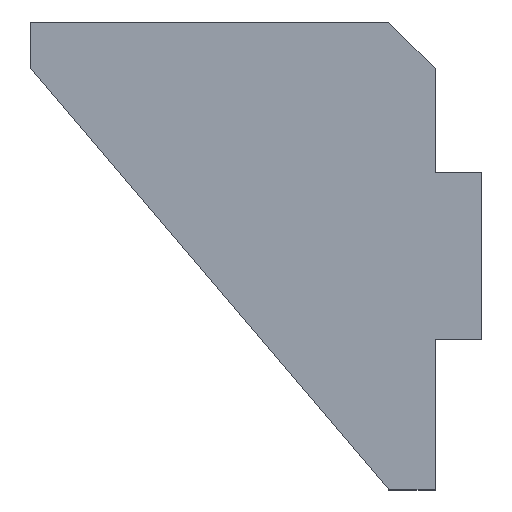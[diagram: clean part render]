
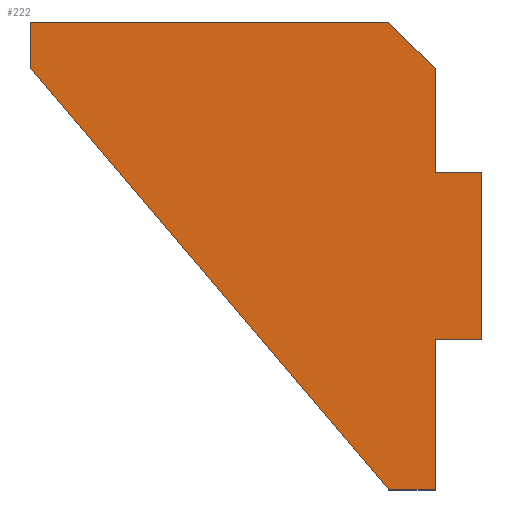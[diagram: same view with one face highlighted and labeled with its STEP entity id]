
A CAD part, top view. The second image highlights one B-rep face of the part: STEP entity #222.
In plain terms, the highlighted planar face has unit normal (0, 0, 1).
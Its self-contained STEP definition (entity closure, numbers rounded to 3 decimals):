
#16=FACE_OUTER_BOUND('',#28,.T.);
#28=EDGE_LOOP('',(#153,#154,#155,#156,#157,#158,#159,#160,#161,#162));
#41=LINE('',#332,#71);
#43=LINE('',#336,#73);
#44=LINE('',#338,#74);
#45=LINE('',#340,#75);
#46=LINE('',#342,#76);
#47=LINE('',#344,#77);
#48=LINE('',#346,#78);
#49=LINE('',#348,#79);
#50=LINE('',#350,#80);
#51=LINE('',#351,#81);
#71=VECTOR('',#274,10.);
#73=VECTOR('',#278,10.);
#74=VECTOR('',#279,10.);
#75=VECTOR('',#280,10.);
#76=VECTOR('',#281,10.);
#77=VECTOR('',#282,10.);
#78=VECTOR('',#283,10.);
#79=VECTOR('',#284,10.);
#80=VECTOR('',#285,10.);
#81=VECTOR('',#286,10.);
#101=VERTEX_POINT('',#329);
#102=VERTEX_POINT('',#331);
#103=VERTEX_POINT('',#335);
#104=VERTEX_POINT('',#337);
#105=VERTEX_POINT('',#339);
#106=VERTEX_POINT('',#341);
#107=VERTEX_POINT('',#343);
#108=VERTEX_POINT('',#345);
#109=VERTEX_POINT('',#347);
#110=VERTEX_POINT('',#349);
#121=EDGE_CURVE('',#101,#102,#41,.T.);
#123=EDGE_CURVE('',#101,#103,#43,.T.);
#124=EDGE_CURVE('',#103,#104,#44,.T.);
#125=EDGE_CURVE('',#104,#105,#45,.T.);
#126=EDGE_CURVE('',#105,#106,#46,.T.);
#127=EDGE_CURVE('',#106,#107,#47,.T.);
#128=EDGE_CURVE('',#107,#108,#48,.T.);
#129=EDGE_CURVE('',#108,#109,#49,.T.);
#130=EDGE_CURVE('',#109,#110,#50,.T.);
#131=EDGE_CURVE('',#110,#102,#51,.T.);
#153=ORIENTED_EDGE('',*,*,#121,.F.);
#154=ORIENTED_EDGE('',*,*,#123,.T.);
#155=ORIENTED_EDGE('',*,*,#124,.T.);
#156=ORIENTED_EDGE('',*,*,#125,.T.);
#157=ORIENTED_EDGE('',*,*,#126,.T.);
#158=ORIENTED_EDGE('',*,*,#127,.T.);
#159=ORIENTED_EDGE('',*,*,#128,.T.);
#160=ORIENTED_EDGE('',*,*,#129,.T.);
#161=ORIENTED_EDGE('',*,*,#130,.T.);
#162=ORIENTED_EDGE('',*,*,#131,.T.);
#210=PLANE('',#257);
#222=ADVANCED_FACE('',(#16),#210,.T.);
#257=AXIS2_PLACEMENT_3D('',#334,#276,#277);
#274=DIRECTION('',(0.707,-0.707,0.));
#276=DIRECTION('center_axis',(0.,0.,1.));
#277=DIRECTION('ref_axis',(1.,0.,0.));
#278=DIRECTION('',(-1.,0.,0.));
#279=DIRECTION('',(0.,-1.,0.));
#280=DIRECTION('',(0.647,-0.762,0.));
#281=DIRECTION('',(1.,0.,0.));
#282=DIRECTION('',(0.,1.,0.));
#283=DIRECTION('',(1.,0.,0.));
#284=DIRECTION('',(0.,1.,0.));
#285=DIRECTION('',(-1.,0.,0.));
#286=DIRECTION('',(0.,1.,0.));
#329=CARTESIAN_POINT('',(-8.,0.,0.));
#331=CARTESIAN_POINT('',(0.,-8.,0.));
#332=CARTESIAN_POINT('',(-1.625,-6.375,0.));
#334=CARTESIAN_POINT('Origin',(-31.,-40.5,0.));
#335=CARTESIAN_POINT('',(-70.,0.,0.));
#336=CARTESIAN_POINT('',(0.,0.,0.));
#337=CARTESIAN_POINT('',(-70.,-8.,0.));
#338=CARTESIAN_POINT('',(-70.,0.,0.));
#339=CARTESIAN_POINT('',(-8.,-81.,0.));
#340=CARTESIAN_POINT('',(-70.,-8.,0.));
#341=CARTESIAN_POINT('',(0.,-81.,0.));
#342=CARTESIAN_POINT('',(-8.,-81.,0.));
#343=CARTESIAN_POINT('',(0.,-55.,0.));
#344=CARTESIAN_POINT('',(0.,-81.,0.));
#345=CARTESIAN_POINT('',(8.,-55.,0.));
#346=CARTESIAN_POINT('',(0.,-55.,0.));
#347=CARTESIAN_POINT('',(8.,-26.,0.));
#348=CARTESIAN_POINT('',(8.,-55.,0.));
#349=CARTESIAN_POINT('',(0.,-26.,0.));
#350=CARTESIAN_POINT('',(8.,-26.,0.));
#351=CARTESIAN_POINT('',(0.,-81.,0.));
